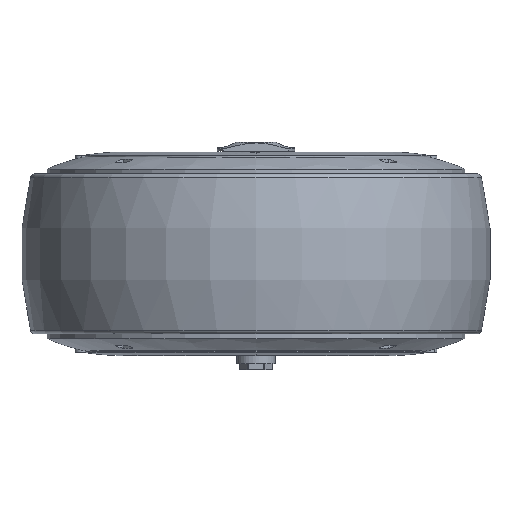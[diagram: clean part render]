
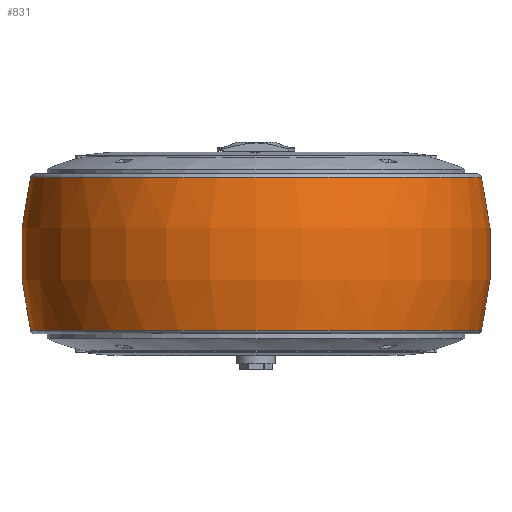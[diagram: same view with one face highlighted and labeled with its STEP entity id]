
A CAD part, front view. The second image highlights one B-rep face of the part: STEP entity #831.
In plain terms, the highlighted toroidal (fillet/blend) face has major radius 48 mm and minor radius 200 mm.
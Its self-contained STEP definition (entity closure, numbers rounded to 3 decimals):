
#643 = AXIS2_PLACEMENT_3D ( 'NONE', #7454, #20723, #9673 ) ;
#831 = ADVANCED_FACE ( 'NONE', ( #24290 ), #18340, .T. ) ;
#2435 = DIRECTION ( 'NONE',  ( 0., 0., 1. ) ) ;
#2678 = CARTESIAN_POINT ( 'NONE',  ( -145.78, 0., -7.742 ) ) ;
#2780 = DIRECTION ( 'NONE',  ( 0., -1., 0. ) ) ;
#3109 = DIRECTION ( 'NONE',  ( 0., 0., -1. ) ) ;
#5074 = AXIS2_PLACEMENT_3D ( 'NONE', #5688, #21254, #7959 ) ;
#5688 = CARTESIAN_POINT ( 'NONE',  ( -48., 0., 41.75 ) ) ;
#6911 = AXIS2_PLACEMENT_3D ( 'NONE', #16414, #3109, #18639 ) ;
#7454 = CARTESIAN_POINT ( 'NONE',  ( 0., 0., 41.75 ) ) ;
#7959 = DIRECTION ( 'NONE',  ( -1., 0., 0. ) ) ;
#7963 = CIRCLE ( 'NONE', #26743, 145.78 ) ;
#8900 = CIRCLE ( 'NONE', #11109, 200. ) ;
#9673 = DIRECTION ( 'NONE',  ( -1., 0., 0. ) ) ;
#9691 = ORIENTED_EDGE ( 'NONE', *, *, #16906, .T. ) ;
#9924 = ORIENTED_EDGE ( 'NONE', *, *, #10757, .T. ) ;
#10757 = EDGE_CURVE ( 'NONE', #24971, #24168, #21433, .T. ) ;
#11109 = AXIS2_PLACEMENT_3D ( 'NONE', #16062, #2780, #18286 ) ;
#12981 = CARTESIAN_POINT ( 'NONE',  ( 145.78, 0., -7.742 ) ) ;
#15183 = EDGE_CURVE ( 'NONE', #24971, #21551, #19830, .T. ) ;
#15714 = CARTESIAN_POINT ( 'NONE',  ( 0., 0., -7.742 ) ) ;
#16062 = CARTESIAN_POINT ( 'NONE',  ( 48., 0., 41.75 ) ) ;
#16414 = CARTESIAN_POINT ( 'NONE',  ( 0., 0., 91.242 ) ) ;
#16906 = EDGE_CURVE ( 'NONE', #22514, #21551, #7963, .T. ) ;
#17006 = CARTESIAN_POINT ( 'NONE',  ( 145.78, 0., 91.242 ) ) ;
#17928 = DIRECTION ( 'NONE',  ( 1., 0., 0. ) ) ;
#18065 = ORIENTED_EDGE ( 'NONE', *, *, #15183, .F. ) ;
#18286 = DIRECTION ( 'NONE',  ( 0., 0., -1. ) ) ;
#18340 = TOROIDAL_SURFACE ( 'NONE', #643, -48., 200. ) ;
#18639 = DIRECTION ( 'NONE',  ( -1., 0., 0. ) ) ;
#19830 = CIRCLE ( 'NONE', #5074, 200. ) ;
#20723 = DIRECTION ( 'NONE',  ( 0., 0., -1. ) ) ;
#21254 = DIRECTION ( 'NONE',  ( 0., 1., 0. ) ) ;
#21326 = EDGE_CURVE ( 'NONE', #24168, #22514, #8900, .T. ) ;
#21433 = CIRCLE ( 'NONE', #6911, 145.78 ) ;
#21551 = VERTEX_POINT ( 'NONE', #12981 ) ;
#22514 = VERTEX_POINT ( 'NONE', #2678 ) ;
#23830 = EDGE_LOOP ( 'NONE', ( #18065, #9924, #24206, #9691 ) ) ;
#24168 = VERTEX_POINT ( 'NONE', #25371 ) ;
#24206 = ORIENTED_EDGE ( 'NONE', *, *, #21326, .T. ) ;
#24290 = FACE_OUTER_BOUND ( 'NONE', #23830, .T. ) ;
#24971 = VERTEX_POINT ( 'NONE', #17006 ) ;
#25371 = CARTESIAN_POINT ( 'NONE',  ( -145.78, 0., 91.242 ) ) ;
#26743 = AXIS2_PLACEMENT_3D ( 'NONE', #15714, #2435, #17928 ) ;
